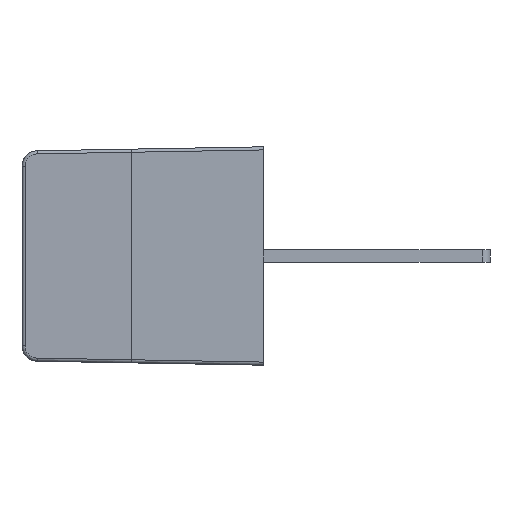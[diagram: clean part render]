
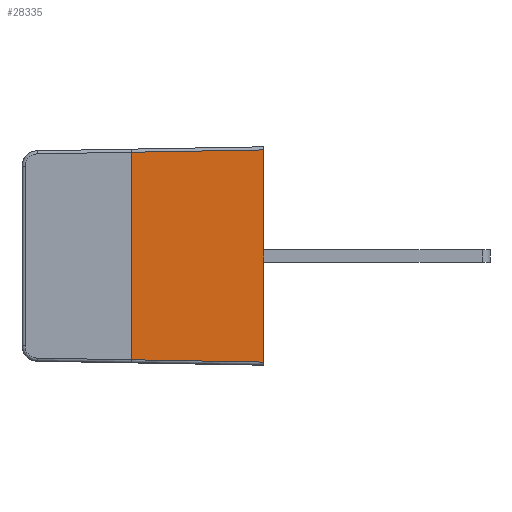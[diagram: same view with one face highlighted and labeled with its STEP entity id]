
A CAD part, left-side view. The second image highlights one B-rep face of the part: STEP entity #28335.
In plain terms, the highlighted planar face has unit normal (-1, 0, 0).
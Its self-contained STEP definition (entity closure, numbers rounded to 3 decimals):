
#349=CARTESIAN_POINT('',(-8.25,8.503,-0.348));
#363=DIRECTION('',(0.,0.,-1.));
#364=VECTOR('',#363,13.303);
#365=CARTESIAN_POINT('',(-8.25,8.503,-0.348));
#366=LINE('',#365,#364);
#367=DIRECTION('',(0.,1.,-0.017));
#368=VECTOR('',#367,8.501);
#369=CARTESIAN_POINT('',(-8.25,0.003,-0.2));
#370=LINE('',#369,#368);
#371=DIRECTION('',(0.,0.,1.));
#372=VECTOR('',#371,13.6);
#373=CARTESIAN_POINT('',(-8.25,0.003,-13.8));
#374=LINE('',#373,#372);
#375=DIRECTION('',(0.,-1.,-0.017));
#376=VECTOR('',#375,8.501);
#377=CARTESIAN_POINT('',(-8.25,8.503,-13.652));
#378=LINE('',#377,#376);
#385=CARTESIAN_POINT('',(-8.25,0.003,-13.8));
#24210=VERTEX_POINT('',#349);
#24211=CARTESIAN_POINT('',(-8.25,8.503,-13.652));
#24212=VERTEX_POINT('',#24211);
#24260=VERTEX_POINT('',#385);
#24261=CARTESIAN_POINT('',(-8.25,0.003,-0.2));
#24262=VERTEX_POINT('',#24261);
#28323=CARTESIAN_POINT('',(-8.25,8.503,-14.));
#28324=DIRECTION('',(-1.,0.,0.));
#28325=DIRECTION('',(0.,-1.,0.));
#28326=AXIS2_PLACEMENT_3D('',#28323,#28324,#28325);
#28327=PLANE('',#28326);
#28328=ORIENTED_EDGE('',*,*,#27878,.F.);
#28329=ORIENTED_EDGE('',*,*,#28315,.F.);
#28330=ORIENTED_EDGE('',*,*,#28277,.F.);
#28332=ORIENTED_EDGE('',*,*,#28331,.F.);
#28333=EDGE_LOOP('',(#28328,#28329,#28330,#28332));
#28334=FACE_OUTER_BOUND('',#28333,.F.);
#28335=ADVANCED_FACE('',(#28334),#28327,.T.);
#27878=EDGE_CURVE('',#24210,#24212,#366,.T.);
#28277=EDGE_CURVE('',#24260,#24262,#374,.T.);
#28315=EDGE_CURVE('',#24262,#24210,#370,.T.);
#28331=EDGE_CURVE('',#24212,#24260,#378,.T.);
